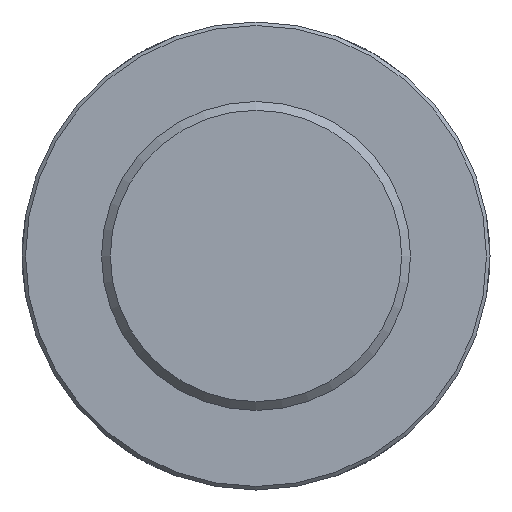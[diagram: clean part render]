
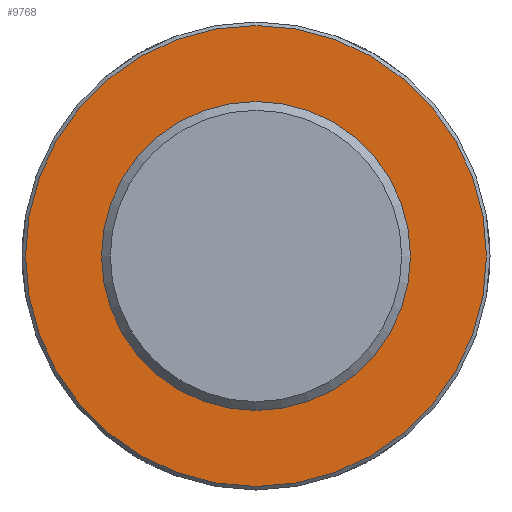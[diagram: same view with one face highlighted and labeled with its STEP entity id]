
A CAD part, front view. The second image highlights one B-rep face of the part: STEP entity #9768.
In plain terms, the highlighted planar face has unit normal (0, -1, 0) as drawn and (0, 1, 0) by its records, which use the part's own axes.
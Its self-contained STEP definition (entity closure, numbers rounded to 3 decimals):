
#73=CIRCLE('',#10089,130.5);
#370=PLANE('',#10092);
#903=FACE_OUTER_BOUND('',#1519,.T.);
#1519=EDGE_LOOP('',(#8896));
#4645=VERTEX_POINT('',#18332);
#6066=EDGE_CURVE('',#4645,#4645,#73,.T.);
#8896=ORIENTED_EDGE('',*,*,#6066,.F.);
#9768=ADVANCED_FACE('',(#903),#370,.T.);
#10089=AXIS2_PLACEMENT_3D('',#18333,#11360,#11361);
#10092=AXIS2_PLACEMENT_3D('',#18571,#11366,#11367);
#11360=DIRECTION('center_axis',(0.,-1.,0.));
#11361=DIRECTION('ref_axis',(1.,0.,0.));
#11366=DIRECTION('center_axis',(0.,1.,0.));
#11367=DIRECTION('ref_axis',(0.,0.,1.));
#18332=CARTESIAN_POINT('',(-130.5,125.,0.));
#18333=CARTESIAN_POINT('Origin',(0.,125.,0.));
#18571=CARTESIAN_POINT('Origin',(0.,125.,0.));
